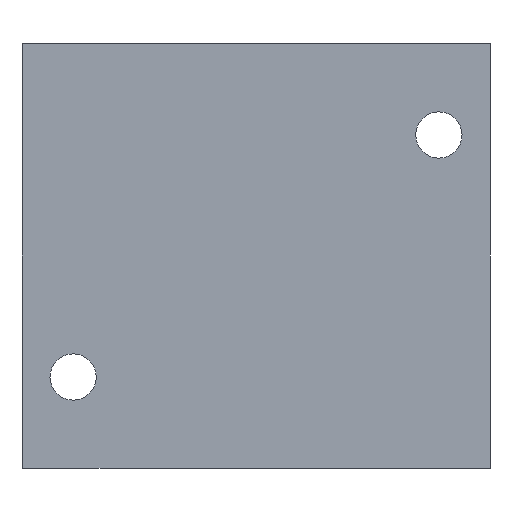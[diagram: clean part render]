
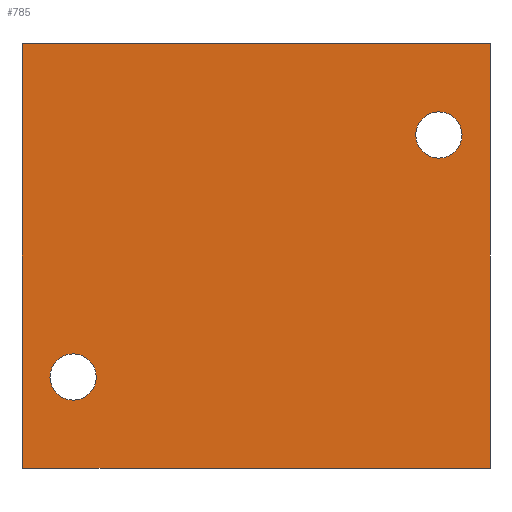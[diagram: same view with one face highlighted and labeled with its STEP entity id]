
A CAD part, front view. The second image highlights one B-rep face of the part: STEP entity #785.
In plain terms, the highlighted planar face has unit normal (0, -1, 0).
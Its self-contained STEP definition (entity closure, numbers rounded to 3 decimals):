
#2 = DIRECTION ( 'NONE',  ( 0., 0., -1. ) ) ;
#10 = EDGE_CURVE ( 'NONE', #730, #2056, #1351, .T. ) ;
#28 = CARTESIAN_POINT ( 'NONE',  ( 34., -35., 22.5 ) ) ;
#31 = VERTEX_POINT ( 'NONE', #1955 ) ;
#48 = CIRCLE ( 'NONE', #1093, 4.3 ) ;
#65 = CARTESIAN_POINT ( 'NONE',  ( 34., -35., 22.5 ) ) ;
#77 = CARTESIAN_POINT ( 'NONE',  ( -43.5, -35., 39.5 ) ) ;
#78 = LINE ( 'NONE', #588, #2159 ) ;
#87 = DIRECTION ( 'NONE',  ( 0., 0., -1. ) ) ;
#100 = CARTESIAN_POINT ( 'NONE',  ( 43.5, -35., 39.5 ) ) ;
#118 = VECTOR ( 'NONE', #2125, 1000. ) ;
#149 = DIRECTION ( 'NONE',  ( 0., 0., 1. ) ) ;
#257 = VECTOR ( 'NONE', #632, 1000. ) ;
#265 = ORIENTED_EDGE ( 'NONE', *, *, #1934, .F. ) ;
#274 = EDGE_CURVE ( 'NONE', #1910, #1982, #427, .T. ) ;
#302 = DIRECTION ( 'NONE',  ( 0., -1., 0. ) ) ;
#317 = CARTESIAN_POINT ( 'NONE',  ( -34., -35., -26.8 ) ) ;
#401 = EDGE_LOOP ( 'NONE', ( #1622, #1512, #1290, #539 ) ) ;
#427 = LINE ( 'NONE', #100, #1244 ) ;
#443 = CIRCLE ( 'NONE', #2124, 4.3 ) ;
#494 = EDGE_CURVE ( 'NONE', #2056, #730, #443, .T. ) ;
#517 = DIRECTION ( 'NONE',  ( 0., -1., 0. ) ) ;
#528 = EDGE_CURVE ( 'NONE', #1544, #31, #78, .T. ) ;
#539 = ORIENTED_EDGE ( 'NONE', *, *, #528, .T. ) ;
#588 = CARTESIAN_POINT ( 'NONE',  ( -43.5, -35., 39.5 ) ) ;
#602 = CARTESIAN_POINT ( 'NONE',  ( 34., -35., 26.8 ) ) ;
#604 = CARTESIAN_POINT ( 'NONE',  ( -34., -35., -22.5 ) ) ;
#609 = FACE_OUTER_BOUND ( 'NONE', #401, .T. ) ;
#632 = DIRECTION ( 'NONE',  ( 1., 0., 0. ) ) ;
#639 = CIRCLE ( 'NONE', #953, 4.3 ) ;
#662 = CARTESIAN_POINT ( 'NONE',  ( 43.5, -35., 39.5 ) ) ;
#670 = EDGE_LOOP ( 'NONE', ( #2097, #265 ) ) ;
#683 = DIRECTION ( 'NONE',  ( 0., 0., -1. ) ) ;
#730 = VERTEX_POINT ( 'NONE', #317 ) ;
#731 = DIRECTION ( 'NONE',  ( 0., 0., -1. ) ) ;
#785 = ADVANCED_FACE ( 'NONE', ( #939, #609, #2001 ), #1642, .F. ) ;
#871 = CARTESIAN_POINT ( 'NONE',  ( 43.5, -35., -39.5 ) ) ;
#905 = ORIENTED_EDGE ( 'NONE', *, *, #494, .F. ) ;
#939 = FACE_BOUND ( 'NONE', #1593, .T. ) ;
#944 = EDGE_CURVE ( 'NONE', #1362, #968, #639, .T. ) ;
#953 = AXIS2_PLACEMENT_3D ( 'NONE', #65, #1561, #1571 ) ;
#968 = VERTEX_POINT ( 'NONE', #602 ) ;
#975 = LINE ( 'NONE', #1973, #257 ) ;
#1093 = AXIS2_PLACEMENT_3D ( 'NONE', #28, #517, #683 ) ;
#1129 = LINE ( 'NONE', #1282, #118 ) ;
#1244 = VECTOR ( 'NONE', #87, 1000. ) ;
#1282 = CARTESIAN_POINT ( 'NONE',  ( -43.5, -35., 39.5 ) ) ;
#1290 = ORIENTED_EDGE ( 'NONE', *, *, #1367, .F. ) ;
#1351 = CIRCLE ( 'NONE', #2086, 4.3 ) ;
#1362 = VERTEX_POINT ( 'NONE', #1456 ) ;
#1367 = EDGE_CURVE ( 'NONE', #1544, #1910, #1129, .T. ) ;
#1401 = ORIENTED_EDGE ( 'NONE', *, *, #10, .F. ) ;
#1456 = CARTESIAN_POINT ( 'NONE',  ( 34., -35., 18.2 ) ) ;
#1512 = ORIENTED_EDGE ( 'NONE', *, *, #274, .F. ) ;
#1513 = CARTESIAN_POINT ( 'NONE',  ( -34., -35., -22.5 ) ) ;
#1544 = VERTEX_POINT ( 'NONE', #77 ) ;
#1561 = DIRECTION ( 'NONE',  ( 0., -1., 0. ) ) ;
#1571 = DIRECTION ( 'NONE',  ( 0., 0., -1. ) ) ;
#1593 = EDGE_LOOP ( 'NONE', ( #1401, #905 ) ) ;
#1622 = ORIENTED_EDGE ( 'NONE', *, *, #1794, .T. ) ;
#1642 = PLANE ( 'NONE',  #1807 ) ;
#1782 = DIRECTION ( 'NONE',  ( 0., 1., 0. ) ) ;
#1794 = EDGE_CURVE ( 'NONE', #31, #1982, #975, .T. ) ;
#1807 = AXIS2_PLACEMENT_3D ( 'NONE', #2139, #1782, #149 ) ;
#1910 = VERTEX_POINT ( 'NONE', #662 ) ;
#1934 = EDGE_CURVE ( 'NONE', #968, #1362, #48, .T. ) ;
#1955 = CARTESIAN_POINT ( 'NONE',  ( -43.5, -35., -39.5 ) ) ;
#1973 = CARTESIAN_POINT ( 'NONE',  ( -43.5, -35., -39.5 ) ) ;
#1982 = VERTEX_POINT ( 'NONE', #871 ) ;
#2001 = FACE_BOUND ( 'NONE', #670, .T. ) ;
#2012 = DIRECTION ( 'NONE',  ( 0., -1., 0. ) ) ;
#2056 = VERTEX_POINT ( 'NONE', #2069 ) ;
#2069 = CARTESIAN_POINT ( 'NONE',  ( -34., -35., -18.2 ) ) ;
#2086 = AXIS2_PLACEMENT_3D ( 'NONE', #604, #302, #2171 ) ;
#2097 = ORIENTED_EDGE ( 'NONE', *, *, #944, .F. ) ;
#2124 = AXIS2_PLACEMENT_3D ( 'NONE', #1513, #2012, #2 ) ;
#2125 = DIRECTION ( 'NONE',  ( 1., 0., 0. ) ) ;
#2139 = CARTESIAN_POINT ( 'NONE',  ( -43.5, -35., 39.5 ) ) ;
#2159 = VECTOR ( 'NONE', #731, 1000. ) ;
#2171 = DIRECTION ( 'NONE',  ( 0., 0., -1. ) ) ;
